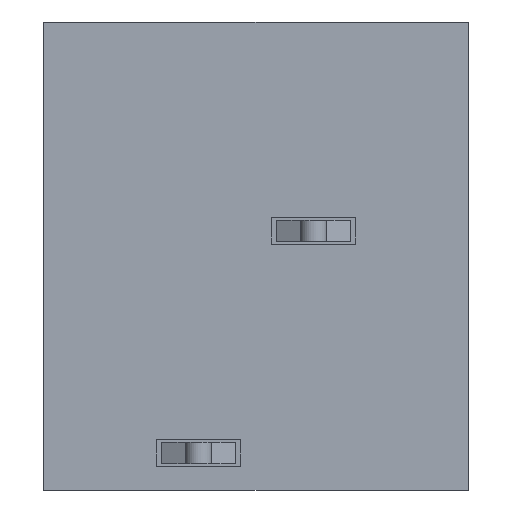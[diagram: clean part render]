
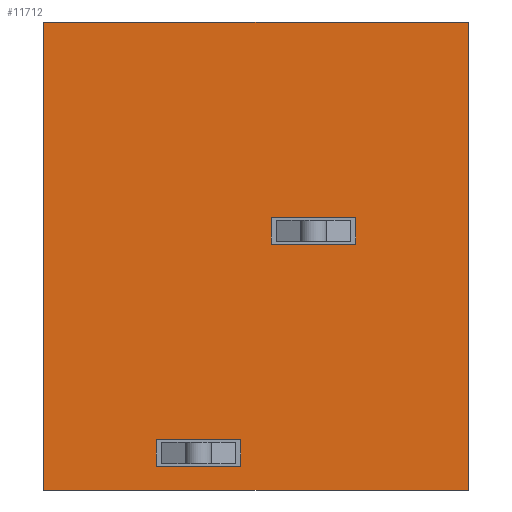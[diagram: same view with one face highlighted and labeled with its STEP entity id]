
A CAD part, front view. The second image highlights one B-rep face of the part: STEP entity #11712.
In plain terms, the highlighted planar face has unit normal (0, -1, 0).
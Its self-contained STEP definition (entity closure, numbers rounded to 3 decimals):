
#990=VECTOR('',#13339,1.);
#1115=VECTOR('',#13557,1.);
#1119=VECTOR('',#13562,1.);
#1122=VECTOR('',#13566,1.);
#1128=VECTOR('',#13574,1.);
#1136=VECTOR('',#13592,1.);
#1142=VECTOR('',#13600,1.);
#1145=VECTOR('',#13604,1.);
#1148=VECTOR('',#13608,1.);
#1151=VECTOR('',#13612,1.);
#1265=VECTOR('',#13730,1.);
#1270=VECTOR('',#13736,1.);
#2310=LINE('',#17326,#990);
#2435=LINE('',#17618,#1115);
#2439=LINE('',#17627,#1119);
#2442=LINE('',#17633,#1122);
#2448=LINE('',#17644,#1128);
#2456=LINE('',#17664,#1136);
#2462=LINE('',#17677,#1142);
#2465=LINE('',#17683,#1145);
#2468=LINE('',#17689,#1148);
#2471=LINE('',#17694,#1151);
#2585=LINE('',#18116,#1265);
#2590=LINE('',#18124,#1270);
#3611=VERTEX_POINT('',#17327);
#3612=VERTEX_POINT('',#17328);
#3708=VERTEX_POINT('',#17619);
#3709=VERTEX_POINT('',#17620);
#3712=VERTEX_POINT('',#17628);
#3714=VERTEX_POINT('',#17634);
#3722=VERTEX_POINT('',#17665);
#3726=VERTEX_POINT('',#17676);
#3727=VERTEX_POINT('',#17678);
#3729=VERTEX_POINT('',#17684);
#3731=VERTEX_POINT('',#17690);
#3890=VERTEX_POINT('',#18114);
#5030=EDGE_CURVE('',#3611,#3612,#2310,.T.);
#5179=EDGE_CURVE('',#3708,#3709,#2435,.T.);
#5183=EDGE_CURVE('',#3709,#3712,#2439,.T.);
#5186=EDGE_CURVE('',#3714,#3708,#2442,.T.);
#5192=EDGE_CURVE('',#3714,#3712,#2448,.T.);
#5202=EDGE_CURVE('',#3722,#3612,#2456,.T.);
#5208=EDGE_CURVE('',#3727,#3726,#2462,.T.);
#5211=EDGE_CURVE('',#3729,#3727,#2465,.T.);
#5214=EDGE_CURVE('',#3731,#3729,#2468,.T.);
#5217=EDGE_CURVE('',#3726,#3731,#2471,.T.);
#5379=EDGE_CURVE('',#3722,#3890,#2585,.T.);
#5384=EDGE_CURVE('',#3890,#3611,#2590,.T.);
#7846=ORIENTED_EDGE('',*,*,#5192,.F.);
#7847=ORIENTED_EDGE('',*,*,#5186,.T.);
#7848=ORIENTED_EDGE('',*,*,#5179,.T.);
#7849=ORIENTED_EDGE('',*,*,#5183,.T.);
#7850=ORIENTED_EDGE('',*,*,#5208,.T.);
#7851=ORIENTED_EDGE('',*,*,#5217,.T.);
#7852=ORIENTED_EDGE('',*,*,#5214,.T.);
#7853=ORIENTED_EDGE('',*,*,#5211,.T.);
#7854=ORIENTED_EDGE('',*,*,#5384,.T.);
#7855=ORIENTED_EDGE('',*,*,#5030,.T.);
#7856=ORIENTED_EDGE('',*,*,#5202,.F.);
#7857=ORIENTED_EDGE('',*,*,#5379,.T.);
#10212=EDGE_LOOP('',(#7846,#7847,#7848,#7849));
#10213=EDGE_LOOP('',(#7850,#7851,#7852,#7853));
#10214=EDGE_LOOP('',(#7854,#7855,#7856,#7857));
#10978=FACE_BOUND('',#10212,.T.);
#10979=FACE_BOUND('',#10213,.T.);
#10980=FACE_BOUND('',#10214,.T.);
#11712=ADVANCED_FACE('',(#10978,#10979,#10980),#21327,.T.);
#12439=AXIS2_PLACEMENT_3D('',#18139,#13747,$);
#13339=DIRECTION('',(0.,0.,1.));
#13557=DIRECTION('',(1.,0.,0.));
#13562=DIRECTION('',(0.,0.,-1.));
#13566=DIRECTION('',(0.,0.,1.));
#13574=DIRECTION('',(1.,0.,0.));
#13592=DIRECTION('',(1.,0.,0.));
#13600=DIRECTION('',(-1.,0.,0.));
#13604=DIRECTION('',(0.,0.,-1.));
#13608=DIRECTION('',(1.,0.,0.));
#13612=DIRECTION('',(0.,0.,1.));
#13730=DIRECTION('',(0.,0.,-1.));
#13736=DIRECTION('',(1.,0.,0.));
#13747=DIRECTION('',(0.,-1.,0.));
#17326=CARTESIAN_POINT('',(16.05,0.,9.3));
#17327=CARTESIAN_POINT('',(16.05,0.,0.));
#17328=CARTESIAN_POINT('',(16.05,0.,17.7));
#17618=CARTESIAN_POINT('',(8.4,0.,10.3));
#17619=CARTESIAN_POINT('',(8.6,0.,10.3));
#17620=CARTESIAN_POINT('',(11.8,0.,10.3));
#17627=CARTESIAN_POINT('',(11.8,0.,11.65));
#17628=CARTESIAN_POINT('',(11.8,0.,9.3));
#17633=CARTESIAN_POINT('',(8.6,0.,11.65));
#17634=CARTESIAN_POINT('',(8.6,0.,9.3));
#17644=CARTESIAN_POINT('',(0.,0.,9.3));
#17664=CARTESIAN_POINT('',(0.,0.,17.7));
#17665=CARTESIAN_POINT('',(0.,0.,17.7));
#17676=CARTESIAN_POINT('',(4.25,0.,0.9));
#17677=CARTESIAN_POINT('',(4.05,0.,0.9));
#17678=CARTESIAN_POINT('',(7.45,0.,0.9));
#17683=CARTESIAN_POINT('',(7.45,0.,3.025));
#17684=CARTESIAN_POINT('',(7.45,0.,1.9));
#17689=CARTESIAN_POINT('',(4.05,0.,1.9));
#17690=CARTESIAN_POINT('',(4.25,0.,1.9));
#17694=CARTESIAN_POINT('',(4.25,0.,3.025));
#18114=CARTESIAN_POINT('',(0.,0.,0.));
#18116=CARTESIAN_POINT('',(0.,0.,9.3));
#18124=CARTESIAN_POINT('',(0.,0.,0.));
#18139=CARTESIAN_POINT('',(0.,0.,4.65));
#21327=PLANE('',#12439);
